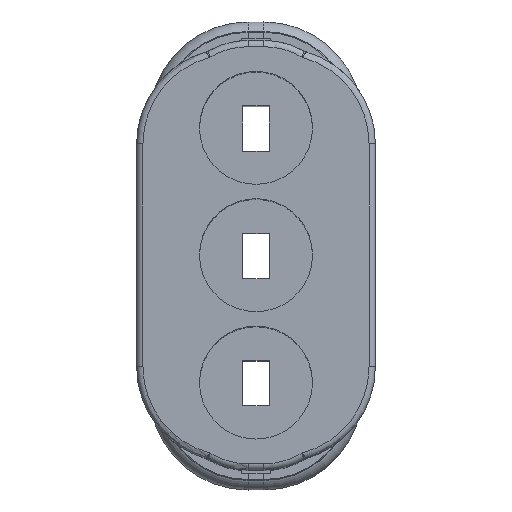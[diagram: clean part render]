
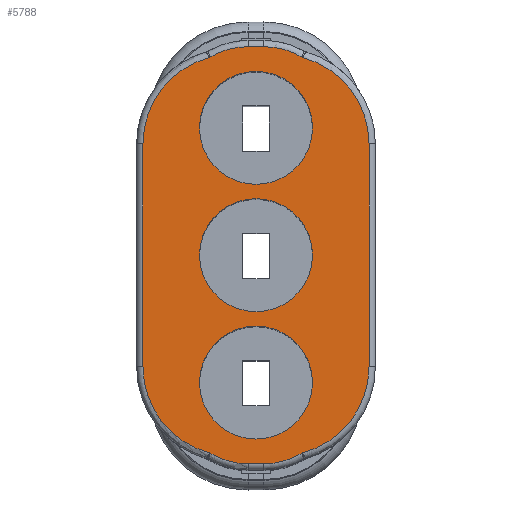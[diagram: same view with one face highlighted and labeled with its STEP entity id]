
A CAD part, top view. The second image highlights one B-rep face of the part: STEP entity #5788.
In plain terms, the highlighted planar face has unit normal (0, 0, 1).
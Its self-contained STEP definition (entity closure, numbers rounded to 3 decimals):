
#17=FACE_BOUND('',#1150,.T.);
#18=FACE_BOUND('',#1151,.T.);
#19=FACE_BOUND('',#1152,.T.);
#560=CIRCLE('',#6220,2.8);
#564=CIRCLE('',#6225,2.3);
#585=CIRCLE('',#6257,2.8);
#589=CIRCLE('',#6262,2.3);
#591=CIRCLE('',#6269,2.8);
#593=CIRCLE('',#6272,2.8);
#595=CIRCLE('',#6277,2.3);
#598=CIRCLE('',#6282,2.3);
#604=CIRCLE('',#6307,1.775);
#605=CIRCLE('',#6308,1.775);
#606=CIRCLE('',#6309,1.775);
#801=FACE_OUTER_BOUND('',#1149,.T.);
#1149=EDGE_LOOP('',(#4237,#4238,#4239,#4240,#4241,#4242,#4243,#4244,#4245,
#4246,#4247,#4248));
#1150=EDGE_LOOP('',(#4249));
#1151=EDGE_LOOP('',(#4250));
#1152=EDGE_LOOP('',(#4251));
#1475=LINE('',#9001,#1923);
#1476=LINE('',#9006,#1924);
#1478=LINE('',#9015,#1926);
#1480=LINE('',#9021,#1928);
#1923=VECTOR('',#7142,10.);
#1924=VECTOR('',#7147,10.);
#1926=VECTOR('',#7159,10.);
#1928=VECTOR('',#7169,10.);
#2381=VERTEX_POINT('',#8504);
#2396=VERTEX_POINT('',#8689);
#2403=VERTEX_POINT('',#8725);
#2405=VERTEX_POINT('',#8731);
#2408=VERTEX_POINT('',#8761);
#2423=VERTEX_POINT('',#8939);
#2430=VERTEX_POINT('',#8975);
#2432=VERTEX_POINT('',#8981);
#2433=VERTEX_POINT('',#8993);
#2434=VERTEX_POINT('',#8997);
#2436=VERTEX_POINT('',#9004);
#2438=VERTEX_POINT('',#9013);
#2484=VERTEX_POINT('',#9280);
#2485=VERTEX_POINT('',#9282);
#2486=VERTEX_POINT('',#9284);
#3032=EDGE_CURVE('',#2381,#2403,#560,.T.);
#3036=EDGE_CURVE('',#2405,#2381,#564,.T.);
#3074=EDGE_CURVE('',#2408,#2430,#585,.T.);
#3078=EDGE_CURVE('',#2432,#2408,#589,.T.);
#3084=EDGE_CURVE('',#2433,#2396,#591,.T.);
#3086=EDGE_CURVE('',#2434,#2423,#593,.T.);
#3087=EDGE_CURVE('',#2430,#2434,#1475,.T.);
#3089=EDGE_CURVE('',#2436,#2405,#1476,.T.);
#3091=EDGE_CURVE('',#2423,#2436,#595,.T.);
#3094=EDGE_CURVE('',#2438,#2432,#1478,.T.);
#3096=EDGE_CURVE('',#2396,#2438,#598,.T.);
#3098=EDGE_CURVE('',#2403,#2433,#1480,.T.);
#3147=EDGE_CURVE('',#2484,#2484,#604,.T.);
#3148=EDGE_CURVE('',#2485,#2485,#605,.T.);
#3149=EDGE_CURVE('',#2486,#2486,#606,.T.);
#4237=ORIENTED_EDGE('',*,*,#3036,.F.);
#4238=ORIENTED_EDGE('',*,*,#3089,.F.);
#4239=ORIENTED_EDGE('',*,*,#3091,.F.);
#4240=ORIENTED_EDGE('',*,*,#3086,.F.);
#4241=ORIENTED_EDGE('',*,*,#3087,.F.);
#4242=ORIENTED_EDGE('',*,*,#3074,.F.);
#4243=ORIENTED_EDGE('',*,*,#3078,.F.);
#4244=ORIENTED_EDGE('',*,*,#3094,.F.);
#4245=ORIENTED_EDGE('',*,*,#3096,.F.);
#4246=ORIENTED_EDGE('',*,*,#3084,.F.);
#4247=ORIENTED_EDGE('',*,*,#3098,.F.);
#4248=ORIENTED_EDGE('',*,*,#3032,.F.);
#4249=ORIENTED_EDGE('',*,*,#3147,.T.);
#4250=ORIENTED_EDGE('',*,*,#3148,.T.);
#4251=ORIENTED_EDGE('',*,*,#3149,.T.);
#5569=PLANE('',#6306);
#5788=ADVANCED_FACE('',(#801,#17,#18,#19),#5569,.F.);
#6220=AXIS2_PLACEMENT_3D('',#8726,#7021,#7022);
#6225=AXIS2_PLACEMENT_3D('',#8733,#7031,#7032);
#6257=AXIS2_PLACEMENT_3D('',#8976,#7104,#7105);
#6262=AXIS2_PLACEMENT_3D('',#8983,#7114,#7115);
#6269=AXIS2_PLACEMENT_3D('',#8995,#7132,#7133);
#6272=AXIS2_PLACEMENT_3D('',#8999,#7138,#7139);
#6277=AXIS2_PLACEMENT_3D('',#9009,#7151,#7152);
#6282=AXIS2_PLACEMENT_3D('',#9018,#7163,#7164);
#6306=AXIS2_PLACEMENT_3D('',#9279,#7221,#7222);
#6307=AXIS2_PLACEMENT_3D('',#9281,#7223,#7224);
#6308=AXIS2_PLACEMENT_3D('',#9283,#7225,#7226);
#6309=AXIS2_PLACEMENT_3D('',#9285,#7227,#7228);
#7021=DIRECTION('center_axis',(0.,0.,-1.));
#7022=DIRECTION('ref_axis',(-0.794,-0.608,0.));
#7031=DIRECTION('center_axis',(0.,0.,-1.));
#7032=DIRECTION('ref_axis',(-0.266,-0.964,0.));
#7104=DIRECTION('center_axis',(0.,0.,-1.));
#7105=DIRECTION('ref_axis',(0.794,0.608,0.));
#7114=DIRECTION('center_axis',(0.,0.,-1.));
#7115=DIRECTION('ref_axis',(0.266,0.964,0.));
#7132=DIRECTION('center_axis',(0.,0.,-1.));
#7133=DIRECTION('ref_axis',(-0.794,0.608,0.));
#7138=DIRECTION('center_axis',(0.,0.,-1.));
#7139=DIRECTION('ref_axis',(0.794,-0.608,0.));
#7142=DIRECTION('',(0.,-1.,0.));
#7147=DIRECTION('',(-1.,0.,0.));
#7151=DIRECTION('center_axis',(0.,0.,-1.));
#7152=DIRECTION('ref_axis',(0.266,-0.964,0.));
#7159=DIRECTION('',(1.,0.,0.));
#7163=DIRECTION('center_axis',(0.,0.,-1.));
#7164=DIRECTION('ref_axis',(-0.266,0.964,0.));
#7169=DIRECTION('',(0.,1.,0.));
#7221=DIRECTION('center_axis',(0.,0.,-1.));
#7222=DIRECTION('ref_axis',(-1.,0.,0.));
#7223=DIRECTION('center_axis',(0.,0.,-1.));
#7224=DIRECTION('ref_axis',(-1.,0.,0.));
#7225=DIRECTION('center_axis',(0.,0.,-1.));
#7226=DIRECTION('ref_axis',(-1.,0.,0.));
#7227=DIRECTION('center_axis',(0.,0.,-1.));
#7228=DIRECTION('ref_axis',(-1.,0.,0.));
#8504=CARTESIAN_POINT('',(-1.453,-2.21,26.25));
#8689=CARTESIAN_POINT('',(-1.453,10.21,26.25));
#8725=CARTESIAN_POINT('',(-3.55,0.5,26.25));
#8726=CARTESIAN_POINT('Origin',(-0.75,0.5,26.25));
#8731=CARTESIAN_POINT('',(-0.25,-2.55,26.25));
#8733=CARTESIAN_POINT('Origin',(-0.25,-0.25,26.25));
#8761=CARTESIAN_POINT('',(1.453,10.21,26.25));
#8939=CARTESIAN_POINT('',(1.453,-2.21,26.25));
#8975=CARTESIAN_POINT('',(3.55,7.5,26.25));
#8976=CARTESIAN_POINT('Origin',(0.75,7.5,26.25));
#8981=CARTESIAN_POINT('',(0.25,10.55,26.25));
#8983=CARTESIAN_POINT('Origin',(0.25,8.25,26.25));
#8993=CARTESIAN_POINT('',(-3.55,7.5,26.25));
#8995=CARTESIAN_POINT('Origin',(-0.75,7.5,26.25));
#8997=CARTESIAN_POINT('',(3.55,0.5,26.25));
#8999=CARTESIAN_POINT('Origin',(0.75,0.5,26.25));
#9001=CARTESIAN_POINT('',(3.55,3.875,26.25));
#9004=CARTESIAN_POINT('',(0.25,-2.55,26.25));
#9006=CARTESIAN_POINT('',(-3.3,-2.55,26.25));
#9009=CARTESIAN_POINT('Origin',(0.25,-0.25,26.25));
#9013=CARTESIAN_POINT('',(-0.25,10.55,26.25));
#9015=CARTESIAN_POINT('',(-3.3,10.55,26.25));
#9018=CARTESIAN_POINT('Origin',(-0.25,8.25,26.25));
#9021=CARTESIAN_POINT('',(-3.55,0.375,26.25));
#9279=CARTESIAN_POINT('Origin',(-6.35,0.25,26.25));
#9280=CARTESIAN_POINT('',(1.775,8.,26.25));
#9281=CARTESIAN_POINT('Origin',(0.,8.,26.25));
#9282=CARTESIAN_POINT('',(1.775,4.,26.25));
#9283=CARTESIAN_POINT('Origin',(0.,4.,26.25));
#9284=CARTESIAN_POINT('',(1.775,0.,26.25));
#9285=CARTESIAN_POINT('Origin',(0.,0.,26.25));
